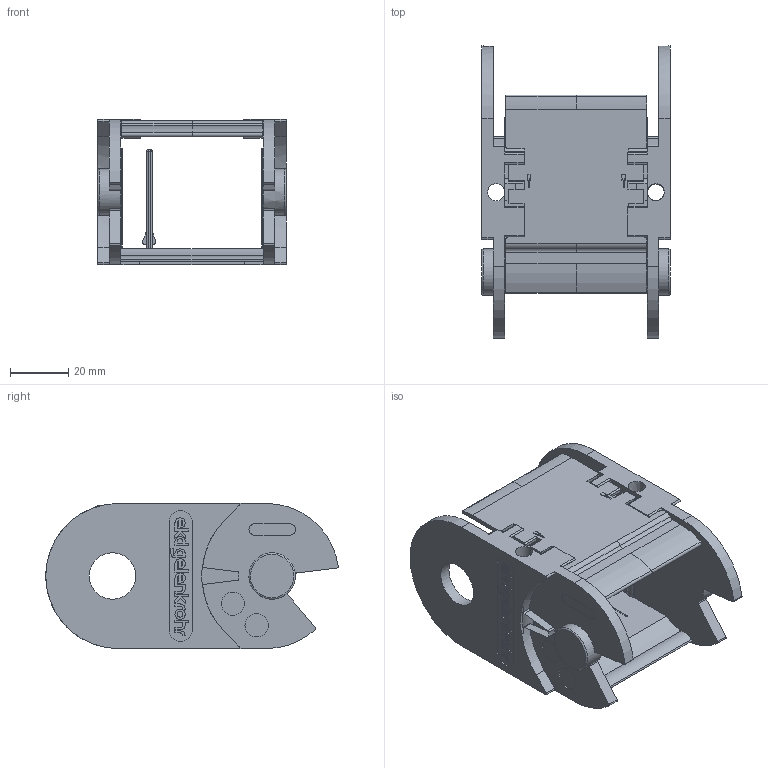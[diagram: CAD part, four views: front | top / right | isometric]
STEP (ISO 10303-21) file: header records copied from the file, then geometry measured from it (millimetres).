
FILE_DESCRIPTION((''),'2;1');
FILE_NAME('C:\Uebbing\PARAMETERKETTEN\KOLIBRI\Kol_50_065_5\Kol 50_065_5.stp','2011-11-02T13:10:10',('Uebbing'),(''),'Autodesk Inventor 10','Autodesk Inventor 10','');
FILE_SCHEMA(('AUTOMOTIVE_DESIGN { 1 0 10303 214 1 1 1 1 }'));
Length unit declared in the file: millimetre
Products named in the file (4): Kol 50_065_5; Kol_50_065_5_Klappdeckel; Kol_50_065_5; Stecksteg PZG 50
Assembly tree (3 placements, depth 2):
  Kol 50_065_5
    Kol_50_065_5_Klappdeckel
    Kol_50_065_5
    Stecksteg PZG 50
Bounding box: 65 x 100.78 x 50 mm (x, y, z)
Volume: 55914 mm3; surface area: 39825.8 mm2
Topology: 3 solids, 3 shells, 679 faces, 1845 edges, 1192 vertices
Faces by surface type: plane 349, cylinder 164, bspline 148, sphere 10, cone 6, torus 2
Full cylindrical faces by diameter (mm): 2.011 x1, 3.531 x1, 4 x6, 6 x1, 8 x2, 16 x2
Entity records: 22232 total; most frequent: CARTESIAN_POINT 5301, ORIENTED_EDGE 3604, DIRECTION 3309, EDGE_CURVE 1802, VECTOR 1331, LINE 1331, VERTEX_POINT 1182, AXIS2_PLACEMENT_3D 989
